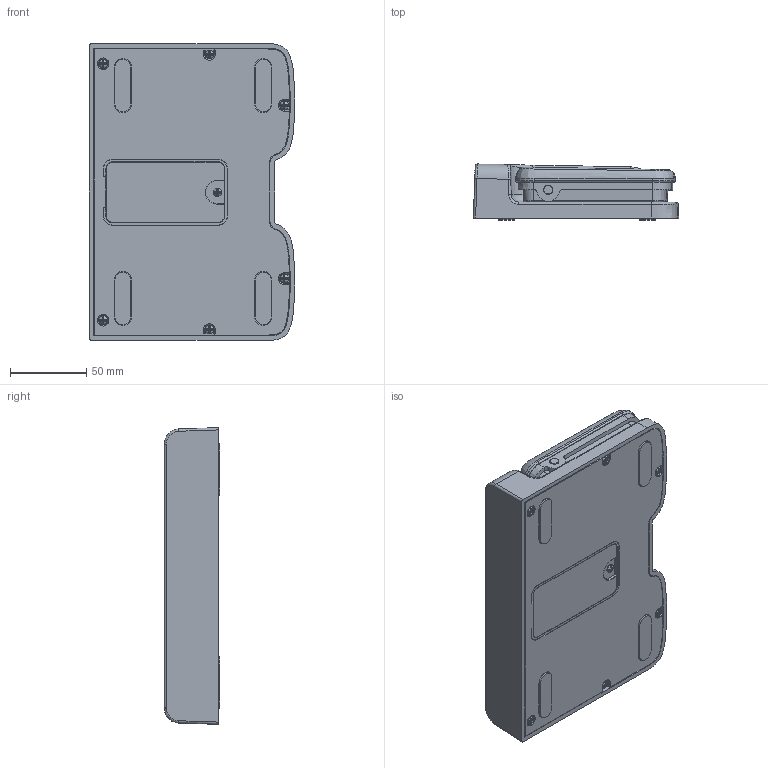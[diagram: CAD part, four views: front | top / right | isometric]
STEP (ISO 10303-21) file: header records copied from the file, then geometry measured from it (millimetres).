
FILE_DESCRIPTION (( 'STEP AP214' ), '1' );
FILE_NAME ('產品三維模型圖-TFS3-無線版-A.STEP', '2015-06-12T06:50:15', ( '' ), ( '' ), 'SwSTEP 2.0', 'SolidWorks 2010', '' );
FILE_SCHEMA (( 'AUTOMOTIVE_DESIGN' ));
Length unit declared in the file: millimetre
Products named in the file (1): 產品三維模型圖-TFS3-無線版-A
Bounding box: 134.62 x 36.45 x 194.58 mm (x, y, z)
Volume: 762350.2 mm3; surface area: 204378.9 mm2
Topology: 20 solids, 20 shells, 965 faces, 2513 edges, 1568 vertices
Faces by surface type: cylinder 326, plane 271, torus 189, bspline 121, sphere 42, cone 16
Entity records: 66608 total; most frequent: CARTESIAN_POINT 33044, ORIENTED_EDGE 4962, DIRECTION 4600, EDGE_CURVE 2481, AXIS2_PLACEMENT_3D 1835, VERTEX_POINT 1568, EDGE_LOOP 1005, CIRCLE 990
